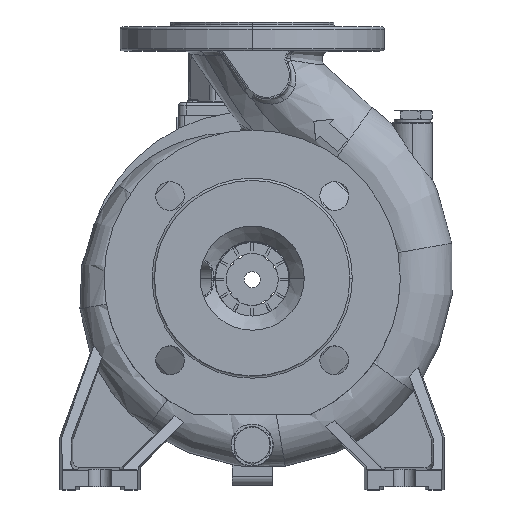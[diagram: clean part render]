
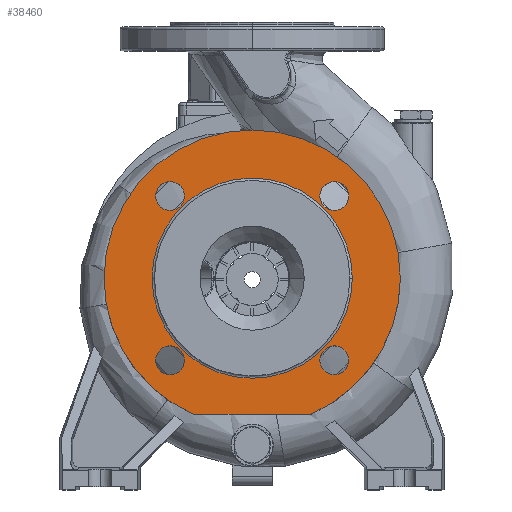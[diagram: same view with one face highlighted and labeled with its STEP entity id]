
A CAD part, top view. The second image highlights one B-rep face of the part: STEP entity #38460.
In plain terms, the highlighted planar face has unit normal (0, 0, 1).
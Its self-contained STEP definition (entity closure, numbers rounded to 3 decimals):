
#4327 = VERTEX_POINT ( 'NONE', #67011 ) ;
#4600 = DIRECTION ( 'NONE',  ( -1., 0., 0. ) ) ;
#5428 = DIRECTION ( 'NONE',  ( -1., 0., 0. ) ) ;
#6159 = EDGE_LOOP ( 'NONE', ( #48580, #85373 ) ) ;
#6491 = EDGE_LOOP ( 'NONE', ( #18997, #81669 ) ) ;
#6743 = ORIENTED_EDGE ( 'NONE', *, *, #75485, .T. ) ;
#7268 = DIRECTION ( 'NONE',  ( 0., 0., -1. ) ) ;
#7692 = DIRECTION ( 'NONE',  ( 0., 0., 1. ) ) ;
#8149 = CARTESIAN_POINT ( 'NONE',  ( -60.265, -51.265, 97. ) ) ;
#8296 = EDGE_CURVE ( 'NONE', #46388, #64230, #95061, .T. ) ;
#8482 = DIRECTION ( 'NONE',  ( -1., 0., 0. ) ) ;
#11546 = DIRECTION ( 'NONE',  ( 1., 0., 0. ) ) ;
#12021 = EDGE_CURVE ( 'NONE', #78314, #92811, #40575, .T. ) ;
#14278 = AXIS2_PLACEMENT_3D ( 'NONE', #88043, #88693, #5428 ) ;
#15007 = AXIS2_PLACEMENT_3D ( 'NONE', #61174, #97340, #59884 ) ;
#15099 = DIRECTION ( 'NONE',  ( 0., 0., -1. ) ) ;
#15260 = ORIENTED_EDGE ( 'NONE', *, *, #50979, .F. ) ;
#15381 = AXIS2_PLACEMENT_3D ( 'NONE', #60328, #7692, #97458 ) ;
#15727 = DIRECTION ( 'NONE',  ( 1., 0., 0. ) ) ;
#15756 = CARTESIAN_POINT ( 'NONE',  ( 51.265, 51.265, 97. ) ) ;
#16684 = AXIS2_PLACEMENT_3D ( 'NONE', #29350, #7268, #37559 ) ;
#17402 = ORIENTED_EDGE ( 'NONE', *, *, #92479, .F. ) ;
#17831 = DIRECTION ( 'NONE',  ( 0., 0., 1. ) ) ;
#18199 = CIRCLE ( 'NONE', #86546, 9. ) ;
#18683 = VERTEX_POINT ( 'NONE', #38517 ) ;
#18997 = ORIENTED_EDGE ( 'NONE', *, *, #85956, .F. ) ;
#19116 = DIRECTION ( 'NONE',  ( 0., 0., 1. ) ) ;
#19916 = AXIS2_PLACEMENT_3D ( 'NONE', #71725, #56646, #4600 ) ;
#20054 = AXIS2_PLACEMENT_3D ( 'NONE', #53552, #15099, #8482 ) ;
#23497 = VERTEX_POINT ( 'NONE', #71230 ) ;
#25257 = FACE_BOUND ( 'NONE', #93765, .T. ) ;
#25891 = CARTESIAN_POINT ( 'NONE',  ( -62.5, 0., 97. ) ) ;
#26409 = AXIS2_PLACEMENT_3D ( 'NONE', #62187, #19116, #11546 ) ;
#26419 = CARTESIAN_POINT ( 'NONE',  ( -60.265, 51.265, 97. ) ) ;
#26995 = CARTESIAN_POINT ( 'NONE',  ( -40.137, -85., 97. ) ) ;
#29350 = CARTESIAN_POINT ( 'NONE',  ( 62.5, 0., 97. ) ) ;
#29362 = DIRECTION ( 'NONE',  ( 0., 0., -1. ) ) ;
#30463 = CIRCLE ( 'NONE', #19916, 92.5 ) ;
#30555 = DIRECTION ( 'NONE',  ( 1., 0., 0. ) ) ;
#31736 = CARTESIAN_POINT ( 'NONE',  ( 60.265, 51.265, 97. ) ) ;
#31846 = DIRECTION ( 'NONE',  ( 0., 0., 1. ) ) ;
#32322 = CIRCLE ( 'NONE', #20054, 62.5 ) ;
#32656 = ORIENTED_EDGE ( 'NONE', *, *, #43032, .F. ) ;
#33529 = DIRECTION ( 'NONE',  ( 0., 0., 1. ) ) ;
#33968 = VERTEX_POINT ( 'NONE', #41013 ) ;
#34559 = EDGE_CURVE ( 'NONE', #90909, #89661, #41112, .T. ) ;
#34945 = VERTEX_POINT ( 'NONE', #31736 ) ;
#37247 = ORIENTED_EDGE ( 'NONE', *, *, #12021, .T. ) ;
#37559 = DIRECTION ( 'NONE',  ( -1., 0., 0. ) ) ;
#38080 = CARTESIAN_POINT ( 'NONE',  ( -51.265, 51.265, 97. ) ) ;
#38460 = ADVANCED_FACE ( 'NONE', ( #25257, #94647, #60536, #72278, #53446, #77000 ), #44775, .F. ) ;
#38517 = CARTESIAN_POINT ( 'NONE',  ( 36.486, -85., 97. ) ) ;
#39896 = LINE ( 'NONE', #26995, #94003 ) ;
#40575 = CIRCLE ( 'NONE', #14278, 92.5 ) ;
#41013 = CARTESIAN_POINT ( 'NONE',  ( 92.5, 0., 97. ) ) ;
#41112 = CIRCLE ( 'NONE', #53703, 9. ) ;
#41585 = CARTESIAN_POINT ( 'NONE',  ( -92.5, 0., 97. ) ) ;
#43032 = EDGE_CURVE ( 'NONE', #23497, #34945, #43162, .T. ) ;
#43162 = CIRCLE ( 'NONE', #59741, 9. ) ;
#43784 = DIRECTION ( 'NONE',  ( 0., 0., 1. ) ) ;
#44092 = CIRCLE ( 'NONE', #26409, 9. ) ;
#44533 = CARTESIAN_POINT ( 'NONE',  ( -36.486, -85., 97. ) ) ;
#44775 = PLANE ( 'NONE',  #16684 ) ;
#45428 = CARTESIAN_POINT ( 'NONE',  ( 0., 0., 97. ) ) ;
#45615 = DIRECTION ( 'NONE',  ( 0., 0., 1. ) ) ;
#46388 = VERTEX_POINT ( 'NONE', #8149 ) ;
#46553 = EDGE_LOOP ( 'NONE', ( #15260, #32656 ) ) ;
#48019 = CARTESIAN_POINT ( 'NONE',  ( -42.265, 51.265, 97. ) ) ;
#48580 = ORIENTED_EDGE ( 'NONE', *, *, #96064, .F. ) ;
#50979 = EDGE_CURVE ( 'NONE', #34945, #23497, #91464, .T. ) ;
#51033 = CARTESIAN_POINT ( 'NONE',  ( 51.265, -51.265, 97. ) ) ;
#53103 = ORIENTED_EDGE ( 'NONE', *, *, #53918, .F. ) ;
#53339 = EDGE_CURVE ( 'NONE', #96387, #4327, #32322, .T. ) ;
#53446 = FACE_OUTER_BOUND ( 'NONE', #83933, .T. ) ;
#53552 = CARTESIAN_POINT ( 'NONE',  ( 0., 0., 97. ) ) ;
#53703 = AXIS2_PLACEMENT_3D ( 'NONE', #62382, #31846, #54465 ) ;
#53918 = EDGE_CURVE ( 'NONE', #79637, #82016, #44092, .T. ) ;
#54198 = CIRCLE ( 'NONE', #75574, 9. ) ;
#54465 = DIRECTION ( 'NONE',  ( 1., 0., 0. ) ) ;
#54948 = DIRECTION ( 'NONE',  ( 1., 0., 0. ) ) ;
#56646 = DIRECTION ( 'NONE',  ( 0., 0., 1. ) ) ;
#58311 = CIRCLE ( 'NONE', #15381, 92.5 ) ;
#59741 = AXIS2_PLACEMENT_3D ( 'NONE', #15756, #67701, #30555 ) ;
#59884 = DIRECTION ( 'NONE',  ( 1., 0., 0. ) ) ;
#60328 = CARTESIAN_POINT ( 'NONE',  ( 0., 0., 97. ) ) ;
#60536 = FACE_BOUND ( 'NONE', #6491, .T. ) ;
#61174 = CARTESIAN_POINT ( 'NONE',  ( 51.265, 51.265, 97. ) ) ;
#62187 = CARTESIAN_POINT ( 'NONE',  ( -51.265, 51.265, 97. ) ) ;
#62382 = CARTESIAN_POINT ( 'NONE',  ( 51.265, -51.265, 97. ) ) ;
#64230 = VERTEX_POINT ( 'NONE', #92414 ) ;
#66368 = AXIS2_PLACEMENT_3D ( 'NONE', #69423, #17831, #54948 ) ;
#66719 = EDGE_CURVE ( 'NONE', #82016, #79637, #54198, .T. ) ;
#67011 = CARTESIAN_POINT ( 'NONE',  ( 62.5, 0., 97. ) ) ;
#67701 = DIRECTION ( 'NONE',  ( 0., 0., 1. ) ) ;
#69423 = CARTESIAN_POINT ( 'NONE',  ( -51.265, -51.265, 97. ) ) ;
#70534 = CIRCLE ( 'NONE', #91861, 62.5 ) ;
#71230 = CARTESIAN_POINT ( 'NONE',  ( 42.265, 51.265, 97. ) ) ;
#71725 = CARTESIAN_POINT ( 'NONE',  ( 0., 0., 97. ) ) ;
#71871 = EDGE_CURVE ( 'NONE', #18683, #33968, #30463, .T. ) ;
#72278 = FACE_BOUND ( 'NONE', #46553, .T. ) ;
#72455 = CIRCLE ( 'NONE', #66368, 9. ) ;
#75485 = EDGE_CURVE ( 'NONE', #4327, #96387, #70534, .T. ) ;
#75574 = AXIS2_PLACEMENT_3D ( 'NONE', #38080, #45615, #15727 ) ;
#75763 = ORIENTED_EDGE ( 'NONE', *, *, #53339, .T. ) ;
#76080 = ORIENTED_EDGE ( 'NONE', *, *, #71871, .T. ) ;
#77000 = FACE_BOUND ( 'NONE', #97423, .T. ) ;
#77804 = ORIENTED_EDGE ( 'NONE', *, *, #95506, .T. ) ;
#78314 = VERTEX_POINT ( 'NONE', #41585 ) ;
#78920 = DIRECTION ( 'NONE',  ( -1., 0., 0. ) ) ;
#79637 = VERTEX_POINT ( 'NONE', #26419 ) ;
#81577 = DIRECTION ( 'NONE',  ( 1., 0., 0. ) ) ;
#81669 = ORIENTED_EDGE ( 'NONE', *, *, #34559, .F. ) ;
#81952 = DIRECTION ( 'NONE',  ( -1., 0., 0. ) ) ;
#82016 = VERTEX_POINT ( 'NONE', #48019 ) ;
#83933 = EDGE_LOOP ( 'NONE', ( #17402, #76080, #77804, #37247 ) ) ;
#84238 = ORIENTED_EDGE ( 'NONE', *, *, #66719, .F. ) ;
#84832 = CARTESIAN_POINT ( 'NONE',  ( -51.265, -51.265, 97. ) ) ;
#85373 = ORIENTED_EDGE ( 'NONE', *, *, #8296, .F. ) ;
#85956 = EDGE_CURVE ( 'NONE', #89661, #90909, #18199, .T. ) ;
#86546 = AXIS2_PLACEMENT_3D ( 'NONE', #51033, #43784, #81577 ) ;
#88043 = CARTESIAN_POINT ( 'NONE',  ( 0., 0., 97. ) ) ;
#88326 = CARTESIAN_POINT ( 'NONE',  ( 60.265, -51.265, 97. ) ) ;
#88470 = AXIS2_PLACEMENT_3D ( 'NONE', #84832, #33529, #92673 ) ;
#88693 = DIRECTION ( 'NONE',  ( 0., 0., 1. ) ) ;
#89661 = VERTEX_POINT ( 'NONE', #88326 ) ;
#90909 = VERTEX_POINT ( 'NONE', #94648 ) ;
#91464 = CIRCLE ( 'NONE', #15007, 9. ) ;
#91861 = AXIS2_PLACEMENT_3D ( 'NONE', #45428, #29362, #81952 ) ;
#92414 = CARTESIAN_POINT ( 'NONE',  ( -42.265, -51.265, 97. ) ) ;
#92479 = EDGE_CURVE ( 'NONE', #18683, #92811, #39896, .T. ) ;
#92673 = DIRECTION ( 'NONE',  ( 1., 0., 0. ) ) ;
#92811 = VERTEX_POINT ( 'NONE', #44533 ) ;
#93765 = EDGE_LOOP ( 'NONE', ( #84238, #53103 ) ) ;
#94003 = VECTOR ( 'NONE', #78920, 1000. ) ;
#94647 = FACE_BOUND ( 'NONE', #6159, .T. ) ;
#94648 = CARTESIAN_POINT ( 'NONE',  ( 42.265, -51.265, 97. ) ) ;
#95061 = CIRCLE ( 'NONE', #88470, 9. ) ;
#95506 = EDGE_CURVE ( 'NONE', #33968, #78314, #58311, .T. ) ;
#96064 = EDGE_CURVE ( 'NONE', #64230, #46388, #72455, .T. ) ;
#96387 = VERTEX_POINT ( 'NONE', #25891 ) ;
#97340 = DIRECTION ( 'NONE',  ( 0., 0., 1. ) ) ;
#97423 = EDGE_LOOP ( 'NONE', ( #75763, #6743 ) ) ;
#97458 = DIRECTION ( 'NONE',  ( -1., 0., 0. ) ) ;
